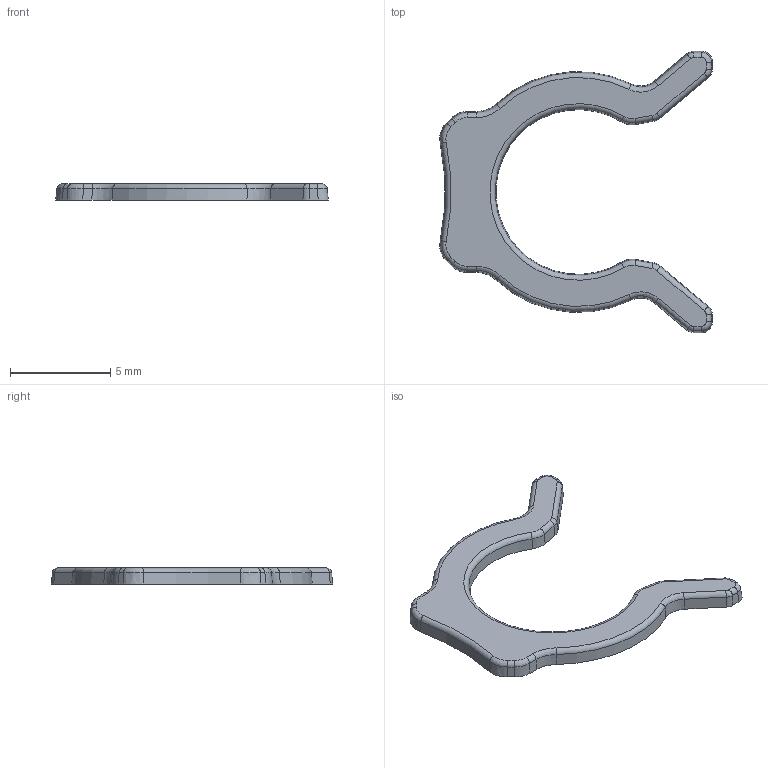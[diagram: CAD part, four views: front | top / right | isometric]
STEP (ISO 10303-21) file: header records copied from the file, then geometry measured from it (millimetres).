
FILE_DESCRIPTION (( 'STEP AP214' ), '1' );
FILE_NAME ('509800032X4ROA.STEP', '2013-05-20T05:59:05', ( 'ST01' ), ( '' ), 'SwSTEP 2.0', 'SolidWorks 2012', '' );
FILE_SCHEMA (( 'AUTOMOTIVE_DESIGN' ));
Length unit declared in the file: millimetre
Products named in the file (1): 509800032X4ROA
Bounding box: 13.57 x 14 x 0.8 mm (x, y, z)
Volume: 49.5 mm3; surface area: 172.9 mm2
Topology: 1 solids, 1 shells, 74 faces, 180 edges, 108 vertices
Faces by surface type: cylinder 22, bspline 20, plane 16, cone 8, torus 8
Entity records: 2488 total; most frequent: CARTESIAN_POINT 893, ORIENTED_EDGE 360, DIRECTION 296, EDGE_CURVE 180, AXIS2_PLACEMENT_3D 115, VERTEX_POINT 108, EDGE_LOOP 74, FACE_OUTER_BOUND 74
